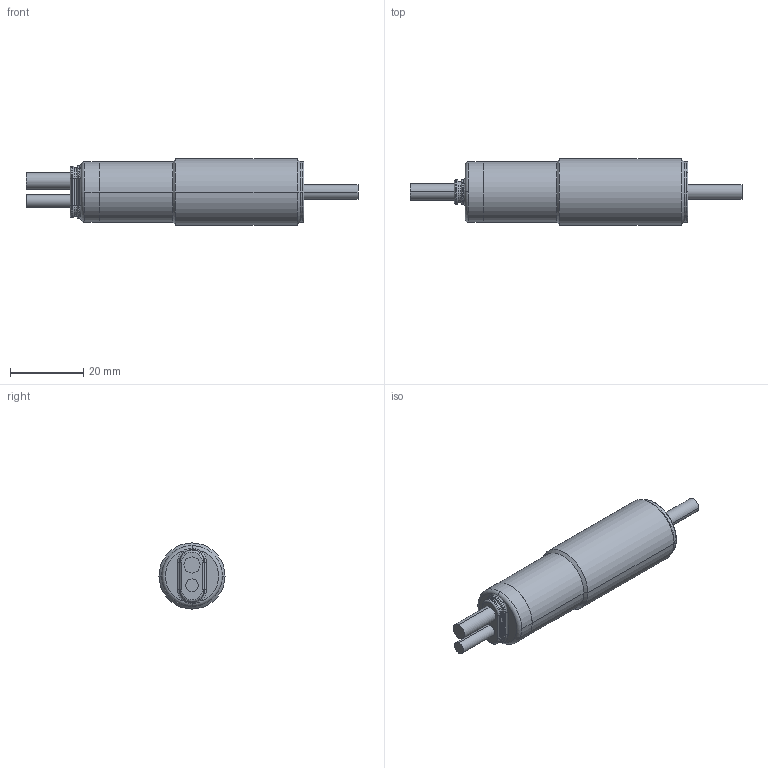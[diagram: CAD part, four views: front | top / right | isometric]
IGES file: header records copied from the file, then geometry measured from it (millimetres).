
Global section: file name: No Iges File Name specified; native system: Autodesk Inventor 2009; preprocessor: AutoDesk Inventor Iges Exporter R2009; author: Oliver Liedtke; date: 20100128.134425; units: millimetre
Bounding box: 90.5 x 18 x 18 mm (x, y, z)
Volume: 15062 mm3; surface area: 4337.4 mm2
Topology: 1 solids, 1 shells, 75 faces, 165 edges, 99 vertices
Faces by surface type: cylinder 22, plane 17, torus 12, bspline 10, cone 8, revolution 6
